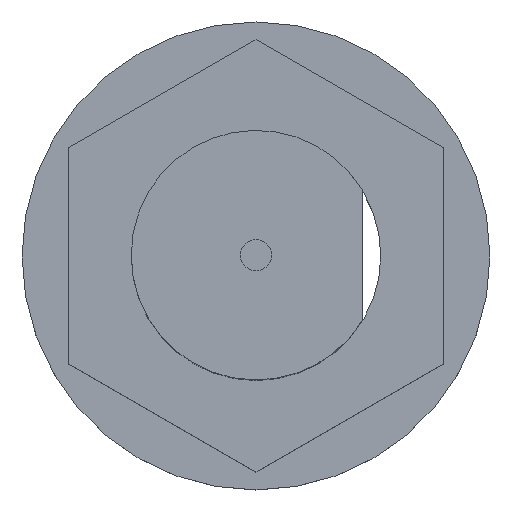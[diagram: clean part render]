
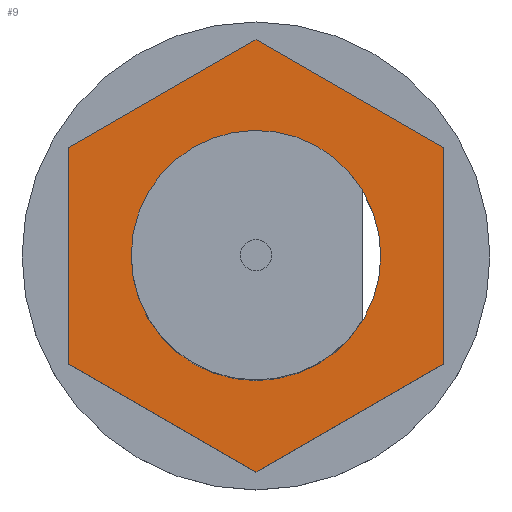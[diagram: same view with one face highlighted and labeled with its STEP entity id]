
A CAD part, top view. The second image highlights one B-rep face of the part: STEP entity #9.
In plain terms, the highlighted planar face has unit normal (0, 0, 1) as drawn and (-1, 0, 0) by its records, which use the part's own axes.
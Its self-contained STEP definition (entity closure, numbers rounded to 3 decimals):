
#1 = ORIENTED_EDGE ( 'NONE', *, *, #7, .T. ) ;
#2 = VERTEX_POINT ( 'NONE', #432 ) ;
#3 = EDGE_CURVE ( 'NONE', #5, #42, #431, .T. ) ;
#4 = ORIENTED_EDGE ( 'NONE', *, *, #3, .T. ) ;
#5 = VERTEX_POINT ( 'NONE', #495 ) ;
#6 = EDGE_LOOP ( 'NONE', ( #1, #4, #43, #144, #135, #128 ) ) ;
#7 = EDGE_CURVE ( 'NONE', #2, #5, #494, .T. ) ;
#9 = ADVANCED_FACE ( 'NONE', ( #490, #489 ), #488, .F. ) ;
#10 = VERTEX_POINT ( 'NONE', #483 ) ;
#11 = VERTEX_POINT ( 'NONE', #482 ) ;
#28 = EDGE_CURVE ( 'NONE', #11, #10, #520, .T. ) ;
#40 = EDGE_CURVE ( 'NONE', #42, #148, #504, .T. ) ;
#42 = VERTEX_POINT ( 'NONE', #500 ) ;
#43 = ORIENTED_EDGE ( 'NONE', *, *, #40, .T. ) ;
#122 = EDGE_CURVE ( 'NONE', #10, #11, #674, .T. ) ;
#124 = ORIENTED_EDGE ( 'NONE', *, *, #28, .F. ) ;
#125 = ORIENTED_EDGE ( 'NONE', *, *, #122, .F. ) ;
#126 = EDGE_LOOP ( 'NONE', ( #124, #125 ) ) ;
#128 = ORIENTED_EDGE ( 'NONE', *, *, #129, .T. ) ;
#129 = EDGE_CURVE ( 'NONE', #130, #2, #668, .T. ) ;
#130 = VERTEX_POINT ( 'NONE', #664 ) ;
#132 = EDGE_CURVE ( 'NONE', #134, #130, #722, .T. ) ;
#133 = EDGE_CURVE ( 'NONE', #148, #134, #718, .T. ) ;
#134 = VERTEX_POINT ( 'NONE', #714 ) ;
#135 = ORIENTED_EDGE ( 'NONE', *, *, #132, .T. ) ;
#144 = ORIENTED_EDGE ( 'NONE', *, *, #133, .T. ) ;
#148 = VERTEX_POINT ( 'NONE', #697 ) ;
#428 = DIRECTION ( 'NONE',  ( 0., -1., 0. ) ) ;
#429 = VECTOR ( 'NONE', #428, 1000. ) ;
#430 = CARTESIAN_POINT ( 'NONE',  ( 11., 3.464, -6. ) ) ;
#431 = LINE ( 'NONE', #430, #429 ) ;
#432 = CARTESIAN_POINT ( 'NONE',  ( 11., 6.928, 0. ) ) ;
#482 = CARTESIAN_POINT ( 'NONE',  ( 11., 2., -3.464 ) ) ;
#483 = CARTESIAN_POINT ( 'NONE',  ( 11., -2., 3.464 ) ) ;
#484 = DIRECTION ( 'NONE',  ( 0., 0.5, -0.866 ) ) ;
#485 = DIRECTION ( 'NONE',  ( 1., 0., 0. ) ) ;
#486 = CARTESIAN_POINT ( 'NONE',  ( 11., 10.392, 6. ) ) ;
#487 = AXIS2_PLACEMENT_3D ( 'NONE', #486, #485, #484 ) ;
#488 = PLANE ( 'NONE',  #487 ) ;
#489 = FACE_BOUND ( 'NONE', #126, .T. ) ;
#490 = FACE_OUTER_BOUND ( 'NONE', #6, .T. ) ;
#491 = DIRECTION ( 'NONE',  ( 0., -0.5, -0.866 ) ) ;
#492 = VECTOR ( 'NONE', #491, 1000. ) ;
#493 = CARTESIAN_POINT ( 'NONE',  ( 11., 6.928, 0. ) ) ;
#494 = LINE ( 'NONE', #493, #492 ) ;
#495 = CARTESIAN_POINT ( 'NONE',  ( 11., 3.464, -6. ) ) ;
#500 = CARTESIAN_POINT ( 'NONE',  ( 11., -3.464, -6. ) ) ;
#501 = DIRECTION ( 'NONE',  ( 0., -0.5, 0.866 ) ) ;
#502 = VECTOR ( 'NONE', #501, 1000. ) ;
#503 = CARTESIAN_POINT ( 'NONE',  ( 11., -3.464, -6. ) ) ;
#504 = LINE ( 'NONE', #503, #502 ) ;
#516 = DIRECTION ( 'NONE',  ( 0., -0.5, 0.866 ) ) ;
#517 = DIRECTION ( 'NONE',  ( -1., 0., 0. ) ) ;
#518 = CARTESIAN_POINT ( 'NONE',  ( 11., 0., 0. ) ) ;
#519 = AXIS2_PLACEMENT_3D ( 'NONE', #518, #517, #516 ) ;
#520 = CIRCLE ( 'NONE', #519, 4. ) ;
#664 = CARTESIAN_POINT ( 'NONE',  ( 11., 3.464, 6. ) ) ;
#665 = DIRECTION ( 'NONE',  ( 0., 0.5, -0.866 ) ) ;
#666 = VECTOR ( 'NONE', #665, 1000. ) ;
#667 = CARTESIAN_POINT ( 'NONE',  ( 11., 3.464, 6. ) ) ;
#668 = LINE ( 'NONE', #667, #666 ) ;
#670 = DIRECTION ( 'NONE',  ( 0., -0.5, 0.866 ) ) ;
#671 = DIRECTION ( 'NONE',  ( -1., 0., 0. ) ) ;
#672 = CARTESIAN_POINT ( 'NONE',  ( 11., 0., 0. ) ) ;
#673 = AXIS2_PLACEMENT_3D ( 'NONE', #672, #671, #670 ) ;
#674 = CIRCLE ( 'NONE', #673, 4. ) ;
#697 = CARTESIAN_POINT ( 'NONE',  ( 11., -6.928, 0. ) ) ;
#714 = CARTESIAN_POINT ( 'NONE',  ( 11., -3.464, 6. ) ) ;
#715 = DIRECTION ( 'NONE',  ( 0., 0.5, 0.866 ) ) ;
#716 = VECTOR ( 'NONE', #715, 1000. ) ;
#717 = CARTESIAN_POINT ( 'NONE',  ( 11., -6.928, 0. ) ) ;
#718 = LINE ( 'NONE', #717, #716 ) ;
#719 = DIRECTION ( 'NONE',  ( 0., 1., 0. ) ) ;
#720 = VECTOR ( 'NONE', #719, 1000. ) ;
#721 = CARTESIAN_POINT ( 'NONE',  ( 11., -3.464, 6. ) ) ;
#722 = LINE ( 'NONE', #721, #720 ) ;
